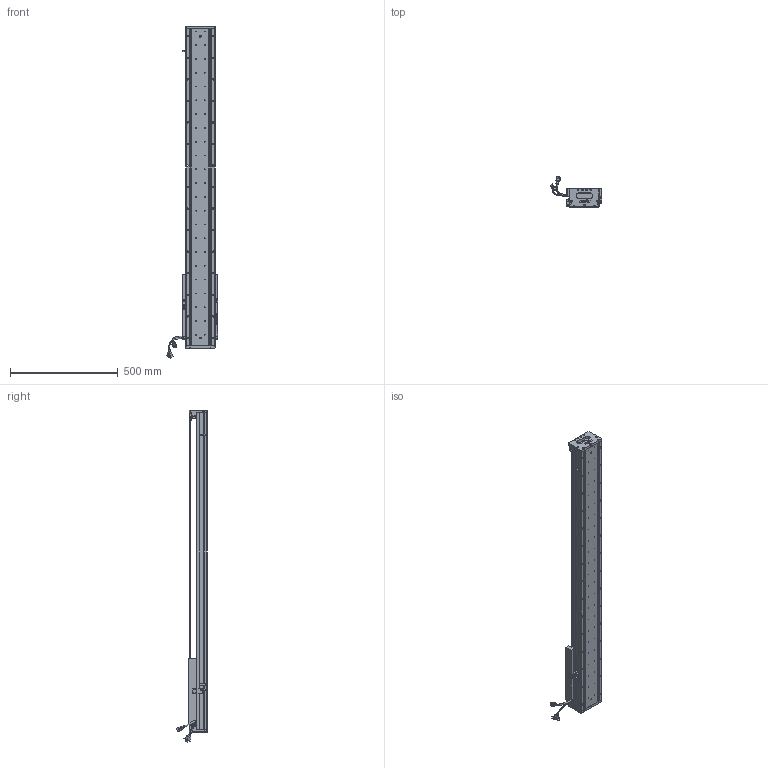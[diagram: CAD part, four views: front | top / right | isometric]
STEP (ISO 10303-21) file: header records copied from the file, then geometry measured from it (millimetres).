
FILE_DESCRIPTION (( 'STEP AP203' ), '1' );
FILE_NAME ('Z4-RY140D-1-L500-B-K.SLDASM_1100.step', '2021-05-17T08:15:47', ( '盈信电脑' ), ( '东莞市道滘镇水果街19号' ), 'SwSTEP 2.0', 'SolidWorks 2016', '' );
FILE_SCHEMA (( 'CONFIG_CONTROL_DESIGN' ));
Length unit declared in the file: millimetre
Products named in the file (36): LABEL-Part-1; SCREW-M1.6-3; PBU_SHEET; Z-RY140感应器672光电感应片; 140雄赽晤鎢ん堤盄; HARNESS; HARNESS-Part-2; SCREW-M1.7-1; HARNESS-Part-1; 詩湍狟揤裔; SHIELDPLATE; 140蚥薯蝶輸; 080黍杅芛假蚾釱21遴; Z4-RY140圉猾敕臏賑輸(21遴); Z4-RY140D-1-L500-B-K.SLDASM_1100; 榋妏寠巭燃_暯_M2_2; LABEL; COVER; COVER-Part-1; PSLH080_PSLF2; 140-Z-臏賑輸盄裔(21遴); SCREW-M1.6-1; SEAL-Part-1; SCALE-Part-2; SCALE-Part-1; 詩湍奻揤裔; SCREW-M1.6-2; Z4-RY140-L500直线电机模组底座_1100; SCREW-M1.7; Z4-RY140-L500詩湍100mm遵_1100; SEAL; SCALE; Z-140詩湍傷裔啣; HOLDER0; SCREW-M1.6; 覜茼ん672
Assembly tree (41 placements, depth 4):
  Z4-RY140D-1-L500-B-K.SLDASM_1100
    Z4-RY140-L500直线电机模组底座_1100
    Z-RY140感应器672光电感应片
    Z4-RY140圉猾敕臏賑輸(21遴)
    覜茼ん672  x3
    Z4-RY140-L500詩湍100mm遵_1100
    PSLH080_PSLF2
      SCALE
        SCALE-Part-1
        SCALE-Part-2
      HARNESS
        HARNESS-Part-1
        HARNESS-Part-2
      LABEL
        LABEL-Part-1
      COVER
        COVER-Part-1
      SEAL
        SEAL-Part-1
      榋妏寠巭燃_暯_M2_2
      SHIELDPLATE
      SCREW-M1.7
      SCREW-M1.7-1
      PBU_SHEET
      SCREW-M1.6
      SCREW-M1.6-1
      SCREW-M1.6-2
      SCREW-M1.6-3
      HOLDER0
    080黍杅芛假蚾釱21遴
    140-Z-臏賑輸盄裔(21遴)
    Z-140詩湍傷裔啣  x2
    詩湍狟揤裔  x2
    詩湍奻揤裔  x2
    140蚥薯蝶輸  x2
    140雄赽晤鎢ん堤盄
Bounding box: 239.84 x 143.88 x 1540.87 mm (x, y, z)
Volume: 5557225.2 mm3; surface area: 1419580.7 mm2
Topology: 36 solids, 36 shells, 3336 faces, 8902 edges, 5637 vertices
Faces by surface type: cylinder 1668, plane 1216, cone 330, torus 69, bspline 53
Entity records: 100954 total; most frequent: CARTESIAN_POINT 26719, ORIENTED_EDGE 14868, DIRECTION 14334, EDGE_CURVE 7434, AXIS2_PLACEMENT_3D 5300, VERTEX_POINT 4805, LINE 3734, VECTOR 3734
